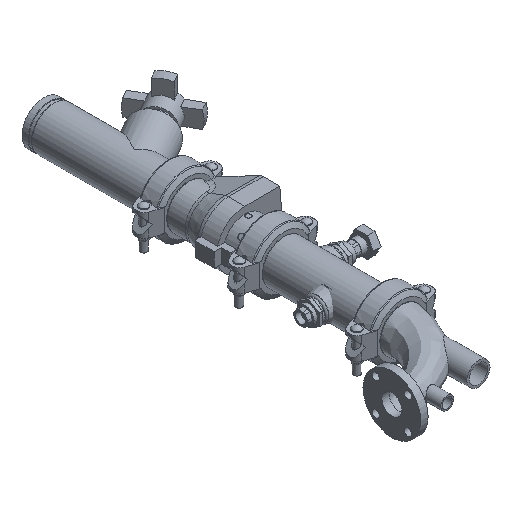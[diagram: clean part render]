
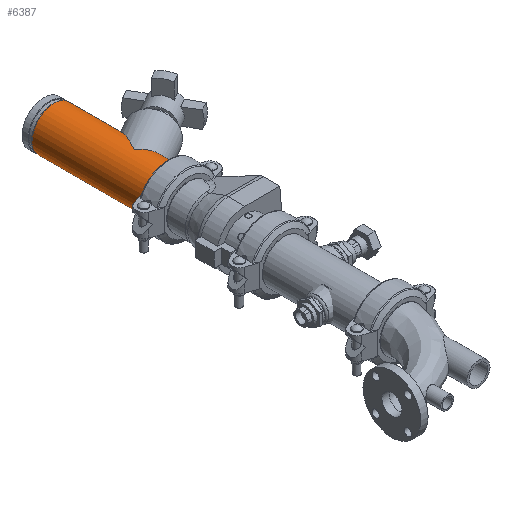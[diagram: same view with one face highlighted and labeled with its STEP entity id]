
A CAD part, isometric view. The second image highlights one B-rep face of the part: STEP entity #6387.
In plain terms, the highlighted cylindrical face has radius 57.15 mm (diameter 114.3 mm), a full revolution.
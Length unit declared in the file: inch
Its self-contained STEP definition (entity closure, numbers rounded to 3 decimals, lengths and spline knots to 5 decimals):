
#128=ELLIPSE('',#6965,4.5,2.25);
#129=ELLIPSE('',#6966,2.59808,2.25);
#130=ELLIPSE('',#6969,2.59808,2.25);
#131=ELLIPSE('',#6970,4.5,2.25);
#218=LINE('',#9802,#690);
#219=LINE('',#9808,#691);
#690=VECTOR('',#7844,2.25);
#691=VECTOR('',#7849,2.25);
#1133=CYLINDRICAL_SURFACE('',#6962,2.25);
#1341=FACE_OUTER_BOUND('',#1700,.T.);
#1700=EDGE_LOOP('',(#4121,#4122,#4123,#4124,#4125,#4126,#4127,#4128,#4129,
#4130,#4131,#4132));
#2131=CIRCLE('',#6963,2.25);
#2132=CIRCLE('',#6964,2.25);
#2133=CIRCLE('',#6967,2.25);
#2134=CIRCLE('',#6968,2.25);
#2508=VERTEX_POINT('',#9797);
#2509=VERTEX_POINT('',#9798);
#2510=VERTEX_POINT('',#9801);
#2511=VERTEX_POINT('',#9803);
#2512=VERTEX_POINT('',#9805);
#2513=VERTEX_POINT('',#9807);
#2514=VERTEX_POINT('',#9809);
#2515=VERTEX_POINT('',#9812);
#3146=EDGE_CURVE('',#2508,#2509,#2131,.T.);
#3147=EDGE_CURVE('',#2509,#2508,#2132,.T.);
#3148=EDGE_CURVE('',#2509,#2510,#218,.T.);
#3149=EDGE_CURVE('',#2510,#2511,#128,.T.);
#3150=EDGE_CURVE('',#2511,#2512,#129,.T.);
#3151=EDGE_CURVE('',#2512,#2513,#219,.T.);
#3152=EDGE_CURVE('',#2513,#2514,#2133,.T.);
#3153=EDGE_CURVE('',#2514,#2513,#2134,.T.);
#3154=EDGE_CURVE('',#2512,#2515,#130,.T.);
#3155=EDGE_CURVE('',#2515,#2510,#131,.T.);
#4121=ORIENTED_EDGE('',*,*,#3146,.F.);
#4122=ORIENTED_EDGE('',*,*,#3147,.F.);
#4123=ORIENTED_EDGE('',*,*,#3148,.T.);
#4124=ORIENTED_EDGE('',*,*,#3149,.T.);
#4125=ORIENTED_EDGE('',*,*,#3150,.T.);
#4126=ORIENTED_EDGE('',*,*,#3151,.T.);
#4127=ORIENTED_EDGE('',*,*,#3152,.T.);
#4128=ORIENTED_EDGE('',*,*,#3153,.T.);
#4129=ORIENTED_EDGE('',*,*,#3151,.F.);
#4130=ORIENTED_EDGE('',*,*,#3154,.T.);
#4131=ORIENTED_EDGE('',*,*,#3155,.T.);
#4132=ORIENTED_EDGE('',*,*,#3148,.F.);
#6387=ADVANCED_FACE('',(#1341),#1133,.T.);
#6962=AXIS2_PLACEMENT_3D('',#9796,#7838,#7839);
#6963=AXIS2_PLACEMENT_3D('',#9799,#7840,#7841);
#6964=AXIS2_PLACEMENT_3D('',#9800,#7842,#7843);
#6965=AXIS2_PLACEMENT_3D('',#9804,#7845,#7846);
#6966=AXIS2_PLACEMENT_3D('',#9806,#7847,#7848);
#6967=AXIS2_PLACEMENT_3D('',#9810,#7850,#7851);
#6968=AXIS2_PLACEMENT_3D('',#9811,#7852,#7853);
#6969=AXIS2_PLACEMENT_3D('',#9813,#7854,#7855);
#6970=AXIS2_PLACEMENT_3D('',#9814,#7856,#7857);
#7838=DIRECTION('center_axis',(1.,0.,0.));
#7839=DIRECTION('ref_axis',(0.,1.,0.));
#7840=DIRECTION('center_axis',(1.,0.,0.));
#7841=DIRECTION('ref_axis',(0.,0.,-1.));
#7842=DIRECTION('center_axis',(1.,0.,0.));
#7843=DIRECTION('ref_axis',(0.,0.,-1.));
#7844=DIRECTION('',(-1.,0.,0.));
#7845=DIRECTION('center_axis',(0.5,0.866,0.));
#7846=DIRECTION('ref_axis',(-0.866,0.5,0.));
#7847=DIRECTION('center_axis',(-0.866,0.5,0.));
#7848=DIRECTION('ref_axis',(-0.5,-0.866,0.));
#7849=DIRECTION('',(-1.,0.,0.));
#7850=DIRECTION('center_axis',(1.,0.,0.));
#7851=DIRECTION('ref_axis',(0.,0.,-1.));
#7852=DIRECTION('center_axis',(1.,0.,0.));
#7853=DIRECTION('ref_axis',(0.,0.,-1.));
#7854=DIRECTION('center_axis',(-0.866,0.5,0.));
#7855=DIRECTION('ref_axis',(-0.5,-0.866,0.));
#7856=DIRECTION('center_axis',(0.5,0.866,0.));
#7857=DIRECTION('ref_axis',(-0.866,0.5,0.));
#9796=CARTESIAN_POINT('Origin',(0.,0.,0.));
#9797=CARTESIAN_POINT('',(5.875,2.25,0.));
#9798=CARTESIAN_POINT('',(5.875,-2.25,0.));
#9799=CARTESIAN_POINT('Origin',(5.875,0.,0.));
#9800=CARTESIAN_POINT('Origin',(5.875,0.,0.));
#9801=CARTESIAN_POINT('',(1.35625,-2.25,0.));
#9802=CARTESIAN_POINT('',(0.,-2.25,0.));
#9803=CARTESIAN_POINT('',(-2.54086,0.,-2.25));
#9804=CARTESIAN_POINT('Origin',(-2.54086,0.,
0.));
#9805=CARTESIAN_POINT('',(-3.8399,-2.25,0.));
#9806=CARTESIAN_POINT('Origin',(-2.54086,0.,
0.));
#9807=CARTESIAN_POINT('',(-5.875,-2.25,0.));
#9808=CARTESIAN_POINT('',(0.,-2.25,0.));
#9809=CARTESIAN_POINT('',(-5.875,2.25,0.));
#9810=CARTESIAN_POINT('Origin',(-5.875,0.,0.));
#9811=CARTESIAN_POINT('Origin',(-5.875,0.,0.));
#9812=CARTESIAN_POINT('',(-2.54086,0.,2.25));
#9813=CARTESIAN_POINT('Origin',(-2.54086,0.,
0.));
#9814=CARTESIAN_POINT('Origin',(-2.54086,0.,
0.));
